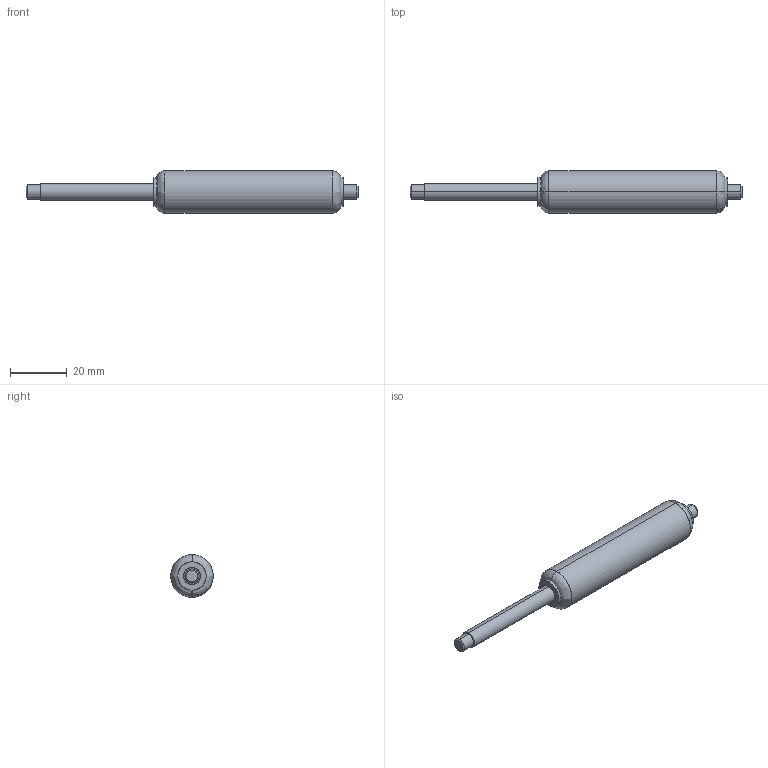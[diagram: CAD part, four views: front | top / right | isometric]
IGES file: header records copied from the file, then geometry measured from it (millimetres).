
Start section: SolidWorks IGES file using analytic representation for surfaces
Bounding box: 117 x 15 x 15 mm (x, y, z)
Surface area: 4257 mm2 (no closed solid volume)
Topology: 0 solids, 0 shells, 25 faces, 336 edges, 336 vertices
Faces by surface type: revolution 16, bspline 9
